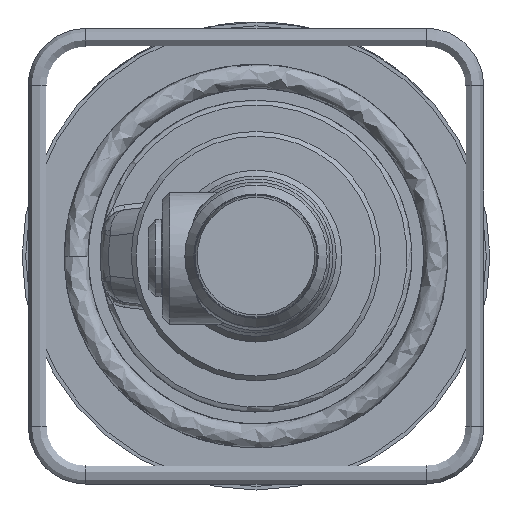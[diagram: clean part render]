
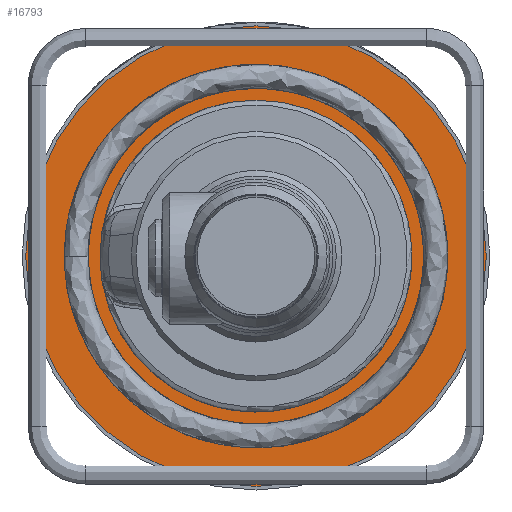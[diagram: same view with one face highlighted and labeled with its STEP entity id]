
A CAD part, left-side view. The second image highlights one B-rep face of the part: STEP entity #16793.
In plain terms, the highlighted planar face has unit normal (-1, 0, 0).
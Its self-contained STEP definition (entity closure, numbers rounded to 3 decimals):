
#3556=PLANE('',#17775);
#3674=FACE_BOUND('',#5749,.T.);
#4618=FACE_OUTER_BOUND('',#5748,.T.);
#5748=EDGE_LOOP('',(#14865));
#5749=EDGE_LOOP('',(#14866));
#6436=CIRCLE('',#17730,65.);
#6460=CIRCLE('',#17776,96.);
#8045=VERTEX_POINT('',#40963);
#8074=VERTEX_POINT('',#41444);
#10341=EDGE_CURVE('',#8045,#8045,#6436,.T.);
#10387=EDGE_CURVE('',#8074,#8074,#6460,.T.);
#14865=ORIENTED_EDGE('',*,*,#10387,.F.);
#14866=ORIENTED_EDGE('',*,*,#10341,.T.);
#16793=ADVANCED_FACE('',(#4618,#3674),#3556,.F.);
#17730=AXIS2_PLACEMENT_3D('',#40964,#20473,#20474);
#17775=AXIS2_PLACEMENT_3D('',#41443,#20565,#20566);
#17776=AXIS2_PLACEMENT_3D('',#41445,#20567,#20568);
#20473=DIRECTION('center_axis',(1.,0.,0.));
#20474=DIRECTION('ref_axis',(0.,0.,
1.));
#20565=DIRECTION('center_axis',(1.,0.,0.));
#20566=DIRECTION('ref_axis',(0.,1.,0.));
#20567=DIRECTION('center_axis',(1.,0.,0.));
#20568=DIRECTION('ref_axis',(0.,1.,0.));
#40963=CARTESIAN_POINT('',(0.,0.,65.));
#40964=CARTESIAN_POINT('Origin',(0.,0.,
0.));
#41443=CARTESIAN_POINT('Origin',(0.,0.,
0.));
#41444=CARTESIAN_POINT('',(0.,-96.,0.));
#41445=CARTESIAN_POINT('Origin',(0.,0.,
0.));
